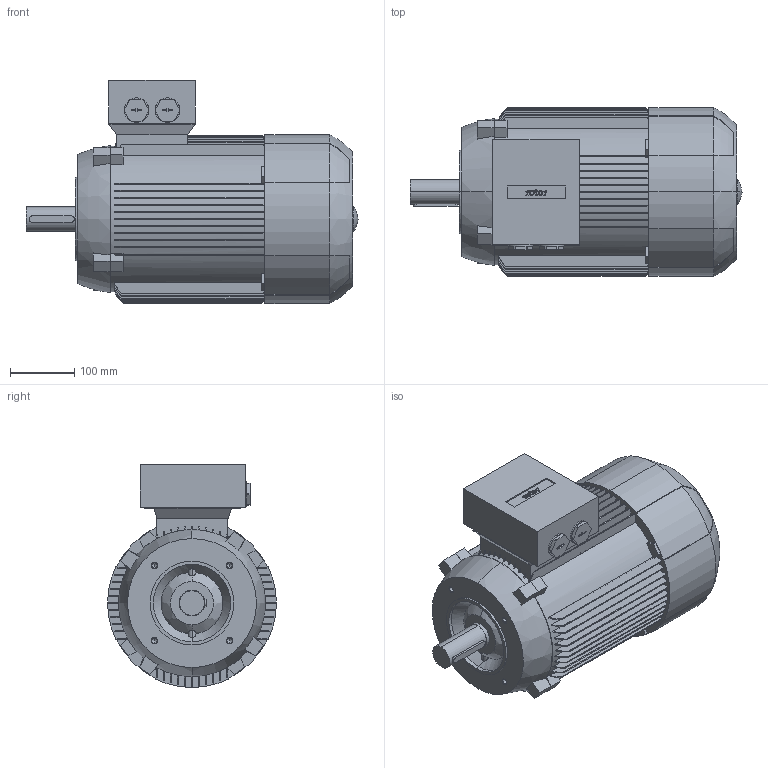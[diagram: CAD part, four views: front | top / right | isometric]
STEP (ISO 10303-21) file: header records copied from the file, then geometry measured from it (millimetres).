
FILE_DESCRIPTION (( 'STEP AP214' ), '1' );
FILE_NAME ('6RN132S02E31 IM3601.STEP', '2014-09-16T11:39:06', ( 'rbc_ict' ), ( 'REGAL' ), 'SwSTEP 2.0', 'SolidWorks 2012', '' );
FILE_SCHEMA (( 'AUTOMOTIVE_DESIGN' ));
Length unit declared in the file: millimetre
Products named in the file (1): 6RN132S02E31 IM3601
Bounding box: 515 x 262 x 346 mm (x, y, z)
Volume: 20758987 mm3; surface area: 797995 mm2
Topology: 1 solids, 1 shells, 608 faces, 1706 edges, 1118 vertices
Faces by surface type: plane 319, bspline 152, cylinder 115, cone 22
Entity records: 24225 total; most frequent: CARTESIAN_POINT 9575, ORIENTED_EDGE 3392, DIRECTION 2577, EDGE_CURVE 1696, VERTEX_POINT 1118, LINE 921, VECTOR 921, AXIS2_PLACEMENT_3D 828
